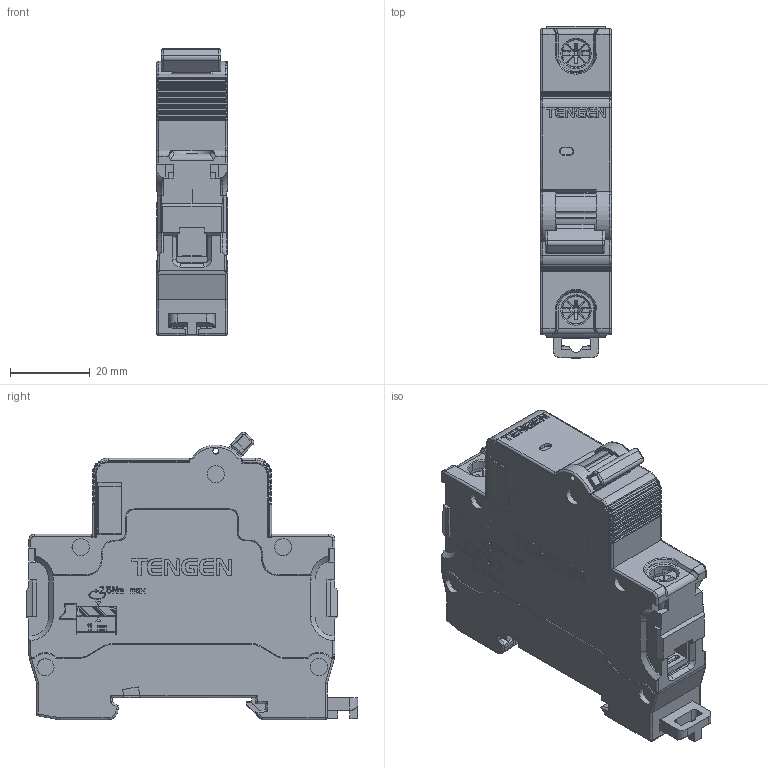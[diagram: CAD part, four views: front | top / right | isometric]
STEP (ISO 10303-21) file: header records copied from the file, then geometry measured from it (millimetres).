
FILE_DESCRIPTION (( 'STEP AP214' ), '1' );
FILE_NAME ('TGH1N-125 1P.STEP', '2025-12-12T13:09:29', ( '' ), ( '' ), 'SwSTEP 2.0', 'SolidWorks 2024', '' );
FILE_SCHEMA (( 'AUTOMOTIVE_DESIGN' ));
Length unit declared in the file: millimetre
Products named in the file (3): 1PP_1_1.stp; TGH1N-125 1P; TGH1N-125 1P.stp
Assembly tree (2 placements, depth 3):
  TGH1N-125 1P
    TGH1N-125 1P.stp
      1PP_1_1.stp
Bounding box: 17.8 x 83.15 x 72 mm (x, y, z)
Volume: 67117.2 mm3; surface area: 23740.3 mm2
Topology: 1 solids, 1 shells, 3100 faces, 8394 edges, 5381 vertices
Faces by surface type: plane 2085, cylinder 543, bspline 206, torus 190, cone 65, sphere 11
Entity records: 108631 total; most frequent: CARTESIAN_POINT 32285, ORIENTED_EDGE 16770, DIRECTION 14531, EDGE_CURVE 8385, VECTOR 6139, LINE 6139, VERTEX_POINT 5381, AXIS2_PLACEMENT_3D 4196
